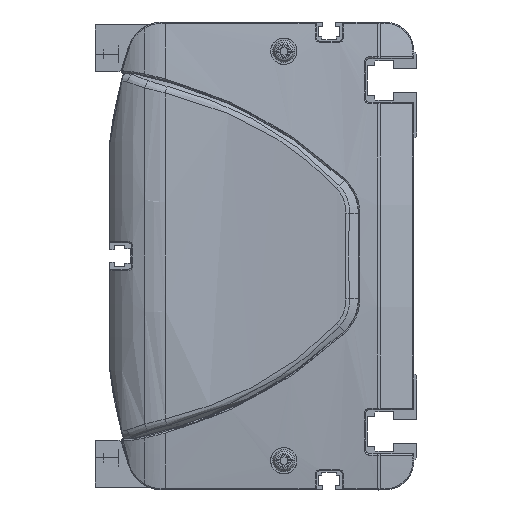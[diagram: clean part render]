
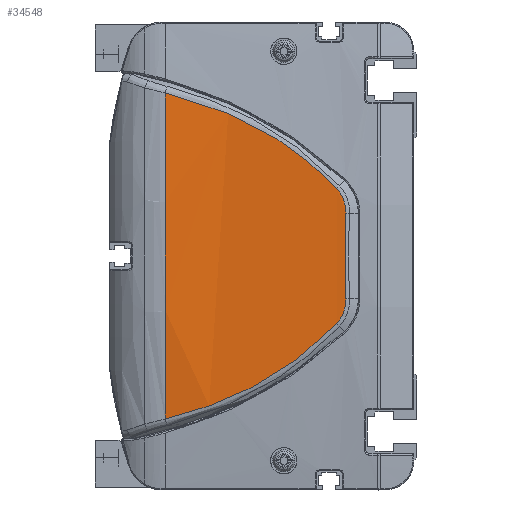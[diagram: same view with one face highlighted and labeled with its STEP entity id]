
A CAD part, left-side view. The second image highlights one B-rep face of the part: STEP entity #34548.
In plain terms, the highlighted cylindrical face has radius 600 mm (diameter 1200 mm), a partial arc.
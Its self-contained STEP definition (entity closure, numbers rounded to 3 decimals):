
#11579=CARTESIAN_POINT('',(-12.406,86.,
55.736));
#11580=CARTESIAN_POINT('',(-12.529,80.495,
54.41));
#11581=CARTESIAN_POINT('',(-12.828,69.636,
51.114));
#11582=CARTESIAN_POINT('',(-13.389,54.079,
44.179));
#11583=CARTESIAN_POINT('',(-14.01,39.709,
34.979));
#11584=CARTESIAN_POINT('',(-14.395,31.353,
27.243));
#11585=CARTESIAN_POINT('',(-14.555,27.451,
23.113));
#11587=CARTESIAN_POINT('',(-14.555,27.451,
23.113));
#11588=CARTESIAN_POINT('',(-14.641,25.336,
20.875));
#11589=CARTESIAN_POINT('',(-14.745,24.202,
17.745));
#11590=CARTESIAN_POINT('',(-14.821,24.351,
14.67));
#11592=CARTESIAN_POINT('',(-14.821,24.351,
14.67));
#11593=CARTESIAN_POINT('',(-14.9,24.51,
11.413));
#11594=CARTESIAN_POINT('',(-15.007,24.721,
4.895));
#11595=CARTESIAN_POINT('',(-15.007,24.721,
-4.895));
#11596=CARTESIAN_POINT('',(-14.9,24.51,
-11.413));
#11597=CARTESIAN_POINT('',(-14.821,24.351,
-14.67));
#11599=CARTESIAN_POINT('',(-14.821,24.351,
-14.67));
#11600=CARTESIAN_POINT('',(-14.745,24.202,
-17.745));
#11601=CARTESIAN_POINT('',(-14.641,25.337,
-20.876));
#11602=CARTESIAN_POINT('',(-14.555,27.451,
-23.113));
#11604=CARTESIAN_POINT('',(-14.555,27.451,
-23.113));
#11605=CARTESIAN_POINT('',(-14.395,31.353,
-27.243));
#11606=CARTESIAN_POINT('',(-14.01,39.709,
-34.979));
#11607=CARTESIAN_POINT('',(-13.389,54.079,
-44.179));
#11608=CARTESIAN_POINT('',(-12.828,69.636,
-51.114));
#11609=CARTESIAN_POINT('',(-12.529,80.495,
-54.41));
#11610=CARTESIAN_POINT('',(-12.406,86.,
-55.736));
#11612=CARTESIAN_POINT('',(585.,86.,0.));
#11613=DIRECTION('',(0.,1.,0.));
#11614=DIRECTION('',(-0.996,0.,-0.093));
#11615=AXIS2_PLACEMENT_3D('',#11612,#11613,#11614);
#11628=CARTESIAN_POINT('',(-12.406,86.,
55.736));
#15049=VERTEX_POINT('',#11628);
#15050=CARTESIAN_POINT('',(-12.406,86.,
-55.736));
#15051=VERTEX_POINT('',#15050);
#15101=VERTEX_POINT('',#11585);
#15102=VERTEX_POINT('',#11590);
#15103=VERTEX_POINT('',#11597);
#15104=VERTEX_POINT('',#11602);
#34530=CARTESIAN_POINT('',(585.,87.45,0.));
#34531=DIRECTION('',(0.,-1.,0.));
#34532=DIRECTION('',(0.,0.,-1.));
#34533=AXIS2_PLACEMENT_3D('',#34530,#34531,#34532);
#34534=CYLINDRICAL_SURFACE('',#34533,600.);
#34536=ORIENTED_EDGE('',*,*,#34535,.T.);
#34538=ORIENTED_EDGE('',*,*,#34537,.T.);
#34539=ORIENTED_EDGE('',*,*,#34520,.T.);
#34541=ORIENTED_EDGE('',*,*,#34540,.T.);
#34543=ORIENTED_EDGE('',*,*,#34542,.T.);
#34545=ORIENTED_EDGE('',*,*,#34544,.T.);
#34546=EDGE_LOOP('',(#34536,#34538,#34539,#34541,#34543,#34545));
#34547=FACE_OUTER_BOUND('',#34546,.F.);
#34548=ADVANCED_FACE('',(#34547),#34534,.T.);
#11586=B_SPLINE_CURVE_WITH_KNOTS('',3,(#11579,#11580,#11581,#11582,#11583,
#11584,#11585),.UNSPECIFIED.,.F.,.F.,(4,1,1,1,4),(0.,0.25,0.5,0.75,
1.),.UNSPECIFIED.);
#11591=B_SPLINE_CURVE_WITH_KNOTS('',3,(#11587,#11588,#11589,#11590),
.UNSPECIFIED.,.F.,.F.,(4,4),(0.,1.),.UNSPECIFIED.);
#11598=B_SPLINE_CURVE_WITH_KNOTS('',3,(#11592,#11593,#11594,#11595,#11596,
#11597),.UNSPECIFIED.,.F.,.F.,(4,1,1,4),(0.,0.333,
0.667,1.),.UNSPECIFIED.);
#11603=B_SPLINE_CURVE_WITH_KNOTS('',3,(#11599,#11600,#11601,#11602),
.UNSPECIFIED.,.F.,.F.,(4,4),(0.,1.),.UNSPECIFIED.);
#11611=B_SPLINE_CURVE_WITH_KNOTS('',3,(#11604,#11605,#11606,#11607,#11608,
#11609,#11610),.UNSPECIFIED.,.F.,.F.,(4,1,1,1,4),(0.,0.25,0.5,0.75,
1.),.UNSPECIFIED.);
#11616=CIRCLE('',#11615,600.);
#34520=EDGE_CURVE('',#15102,#15103,#11598,.T.);
#34535=EDGE_CURVE('',#15049,#15101,#11586,.T.);
#34537=EDGE_CURVE('',#15101,#15102,#11591,.T.);
#34540=EDGE_CURVE('',#15103,#15104,#11603,.T.);
#34542=EDGE_CURVE('',#15104,#15051,#11611,.T.);
#34544=EDGE_CURVE('',#15051,#15049,#11616,.T.);
